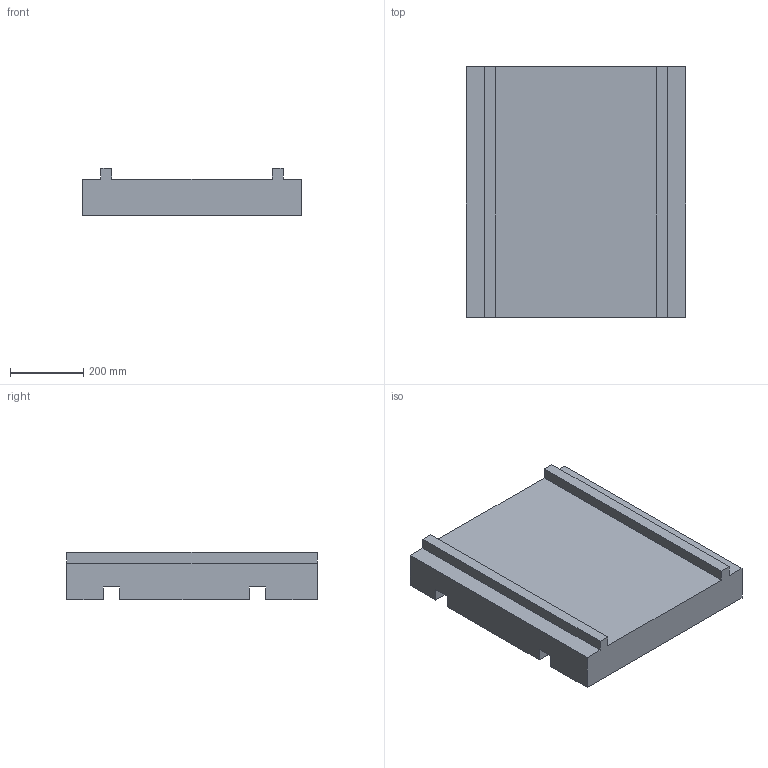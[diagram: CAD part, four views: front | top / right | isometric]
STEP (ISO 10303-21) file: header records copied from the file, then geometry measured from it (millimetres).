
FILE_DESCRIPTION(('CATIA V5 STEP Exchange'),'2;1');
FILE_NAME('D:\Clients_NCS8\Cenit-AG\Import\OKUMA250\Z1.stp','2005-03-09T16:52:42+00:00',('none'),('none'),'CATIA Version 5 Release 14 (IN-10)','CATIA V5 STEP AP203','none');
FILE_SCHEMA(('CONFIG_CONTROL_DESIGN'));
Length unit declared in the file: millimetre
Products named in the file (1): okuma_dr-fr
Assembly tree (1 placements, depth 2):
  okuma_dr-fr
    #56
Bounding box: 600 x 686.05 x 130 mm (x, y, z)
Volume: 40507606.4 mm3; surface area: 1244089 mm2
Topology: 1 solids, 1 shells, 22 faces, 60 edges, 40 vertices
Faces by surface type: plane 22
Entity records: 718 total; most frequent: ORIENTED_EDGE 120, CARTESIAN_POINT 118, DIRECTION 96, VECTOR 60, EDGE_CURVE 60, LINE 60, VERTEX_POINT 40, ADVANCED_FACE 22
